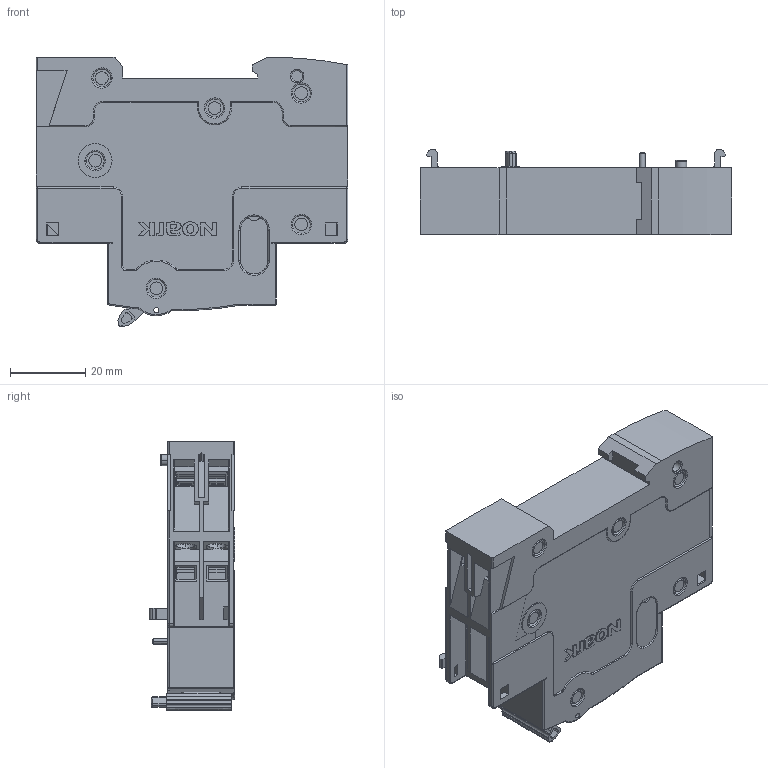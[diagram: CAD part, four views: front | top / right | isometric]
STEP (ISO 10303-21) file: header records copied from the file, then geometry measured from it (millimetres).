
FILE_DESCRIPTION((''),'2;1');
FILE_NAME('SHT3111U_ASM','2025-04-28T12:47:57',('dyliuk3'),(''),'CREO PARAMETRIC BY PTC INC, 2020044','CREO PARAMETRIC BY PTC INC, 2020044','');
FILE_SCHEMA(('CONFIG_CONTROL_DESIGN','SHAPE_APPEARANCE_LAYERS_GROUPS'));
Products named in the file (1): SHT3111U_ASM
Bounding box: 83 x 22.8 x 71.71 mm (x, y, z)
Surface area: 35031.2 mm2 (no closed solid volume)
Topology: 0 solids, 8 shells, 1669 faces, 4767 edges, 3156 vertices
Faces by surface type: plane 1015, cylinder 474, torus 82, sphere 35, extrusion 34, cone 27, bspline 2
Entity records: 66820 total; most frequent: CARTESIAN_POINT 11017, ORIENTED_EDGE 9480, DIRECTION 9375, EDGE_CURVE 4740, AXIS2_PLACEMENT_3D 3182, VERTEX_POINT 3156, VECTOR 3011, LINE 2977
